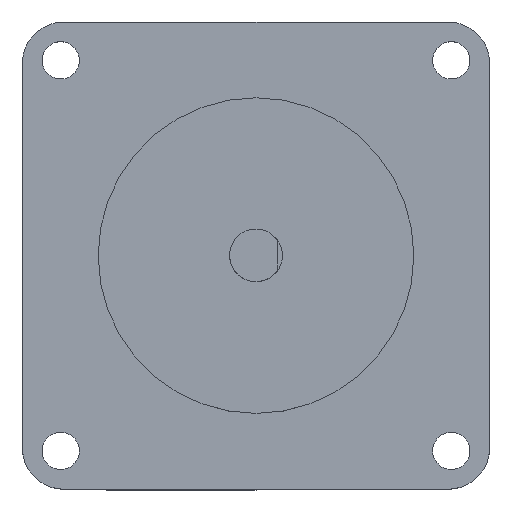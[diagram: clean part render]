
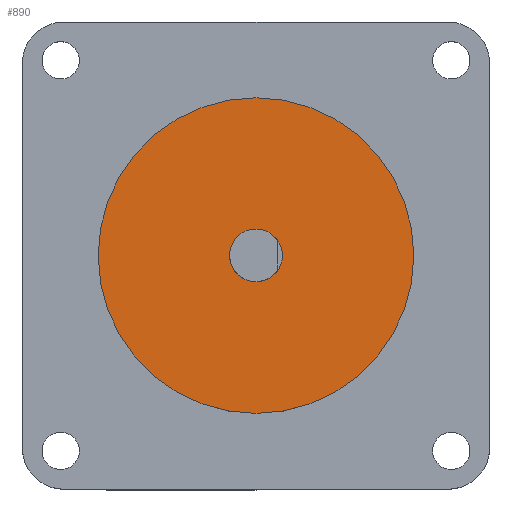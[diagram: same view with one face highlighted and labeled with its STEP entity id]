
A CAD part, top view. The second image highlights one B-rep face of the part: STEP entity #890.
In plain terms, the highlighted planar face has unit normal (0, 0, 1).
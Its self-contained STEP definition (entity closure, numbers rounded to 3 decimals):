
#205 = CIRCLE ( 'NONE', #3609, 3.175 ) ;
#228 = VERTEX_POINT ( 'NONE', #1916 ) ;
#449 = FACE_BOUND ( 'NONE', #636, .T. ) ;
#557 = DIRECTION ( 'NONE',  ( 0., 0., -1. ) ) ;
#636 = EDGE_LOOP ( 'NONE', ( #1282, #2017 ) ) ;
#806 = PLANE ( 'NONE',  #1121 ) ;
#816 = EDGE_LOOP ( 'NONE', ( #2619, #4109 ) ) ;
#822 = EDGE_CURVE ( 'NONE', #2690, #2641, #2821, .T. ) ;
#866 = CIRCLE ( 'NONE', #1232, 19.05 ) ;
#890 = ADVANCED_FACE ( 'NONE', ( #3783, #449 ), #806, .T. ) ;
#1060 = CARTESIAN_POINT ( 'NONE',  ( 19.05, 0., 1.6 ) ) ;
#1086 = DIRECTION ( 'NONE',  ( 0., 0., 1. ) ) ;
#1121 = AXIS2_PLACEMENT_3D ( 'NONE', #3070, #1750, #3400 ) ;
#1232 = AXIS2_PLACEMENT_3D ( 'NONE', #3031, #1086, #3350 ) ;
#1282 = ORIENTED_EDGE ( 'NONE', *, *, #1914, .T. ) ;
#1463 = CARTESIAN_POINT ( 'NONE',  ( -3.175, 0., 1.6 ) ) ;
#1464 = CARTESIAN_POINT ( 'NONE',  ( 0., 0., 1.6 ) ) ;
#1750 = DIRECTION ( 'NONE',  ( 0., 0., 1. ) ) ;
#1784 = DIRECTION ( 'NONE',  ( 1., 0., 0. ) ) ;
#1818 = VERTEX_POINT ( 'NONE', #1463 ) ;
#1833 = DIRECTION ( 'NONE',  ( 0., 0., 1. ) ) ;
#1914 = EDGE_CURVE ( 'NONE', #1818, #228, #205, .T. ) ;
#1916 = CARTESIAN_POINT ( 'NONE',  ( 3.175, 0., 1.6 ) ) ;
#2017 = ORIENTED_EDGE ( 'NONE', *, *, #2772, .T. ) ;
#2179 = AXIS2_PLACEMENT_3D ( 'NONE', #1464, #3719, #1784 ) ;
#2480 = CARTESIAN_POINT ( 'NONE',  ( 0., 0., 1.6 ) ) ;
#2512 = AXIS2_PLACEMENT_3D ( 'NONE', #3764, #1833, #4088 ) ;
#2619 = ORIENTED_EDGE ( 'NONE', *, *, #3026, .T. ) ;
#2641 = VERTEX_POINT ( 'NONE', #2971 ) ;
#2690 = VERTEX_POINT ( 'NONE', #1060 ) ;
#2772 = EDGE_CURVE ( 'NONE', #228, #1818, #3140, .T. ) ;
#2808 = DIRECTION ( 'NONE',  ( 1., 0., 0. ) ) ;
#2821 = CIRCLE ( 'NONE', #2512, 19.05 ) ;
#2971 = CARTESIAN_POINT ( 'NONE',  ( -19.05, 0., 1.6 ) ) ;
#3026 = EDGE_CURVE ( 'NONE', #2641, #2690, #866, .T. ) ;
#3031 = CARTESIAN_POINT ( 'NONE',  ( 0., 0., 1.6 ) ) ;
#3070 = CARTESIAN_POINT ( 'NONE',  ( 0., 0., 1.6 ) ) ;
#3140 = CIRCLE ( 'NONE', #2179, 3.175 ) ;
#3350 = DIRECTION ( 'NONE',  ( 1., 0., 0. ) ) ;
#3400 = DIRECTION ( 'NONE',  ( 1., 0., 0. ) ) ;
#3609 = AXIS2_PLACEMENT_3D ( 'NONE', #2480, #557, #2808 ) ;
#3719 = DIRECTION ( 'NONE',  ( 0., 0., -1. ) ) ;
#3764 = CARTESIAN_POINT ( 'NONE',  ( 0., 0., 1.6 ) ) ;
#3783 = FACE_OUTER_BOUND ( 'NONE', #816, .T. ) ;
#4088 = DIRECTION ( 'NONE',  ( 1., 0., 0. ) ) ;
#4109 = ORIENTED_EDGE ( 'NONE', *, *, #822, .T. ) ;
